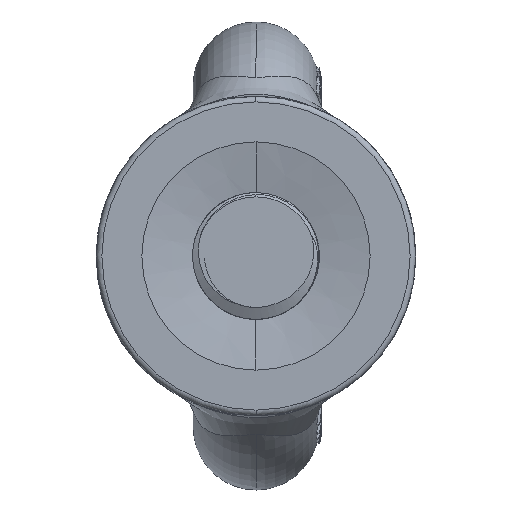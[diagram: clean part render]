
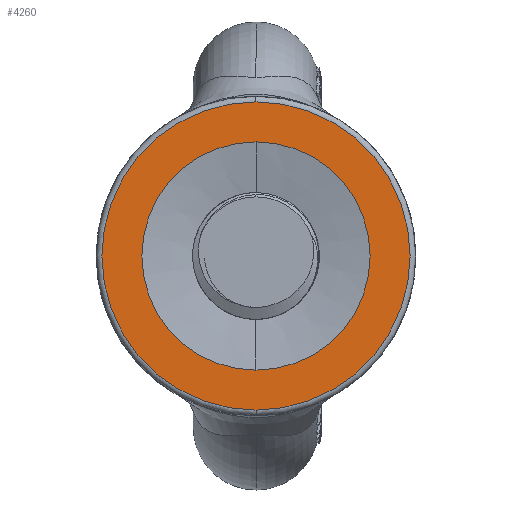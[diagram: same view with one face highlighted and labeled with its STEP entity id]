
A CAD part, left-side view. The second image highlights one B-rep face of the part: STEP entity #4260.
In plain terms, the highlighted planar face has unit normal (-1, 0, 0).
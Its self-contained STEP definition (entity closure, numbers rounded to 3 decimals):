
#27 = VERTEX_POINT ( 'NONE', #7452 ) ;
#41 = VERTEX_POINT ( 'NONE', #7479 ) ;
#502 = ORIENTED_EDGE ( 'NONE', *, *, #2046, .T. ) ;
#509 = ORIENTED_EDGE ( 'NONE', *, *, #2045, .F. ) ;
#546 = ORIENTED_EDGE ( 'NONE', *, *, #1826, .T. ) ;
#1826 = EDGE_CURVE ( 'NONE', #27, #41, #3718, .T. ) ;
#1956 = EDGE_CURVE ( 'NONE', #2283, #2376, #3725, .T. ) ;
#2045 = EDGE_CURVE ( 'NONE', #2376, #2283, #3799, .T. ) ;
#2046 = EDGE_CURVE ( 'NONE', #41, #27, #3800, .T. ) ;
#2056 = AXIS2_PLACEMENT_3D ( 'NONE', #9198, #9199, #9200 ) ;
#2063 = AXIS2_PLACEMENT_3D ( 'NONE', #5085, #5086, #5087 ) ;
#2081 = AXIS2_PLACEMENT_3D ( 'NONE', #6181, #6182, #6183 ) ;
#2082 = AXIS2_PLACEMENT_3D ( 'NONE', #6186, #6187, #6188 ) ;
#2283 = VERTEX_POINT ( 'NONE', #3295 ) ;
#2376 = VERTEX_POINT ( 'NONE', #3386 ) ;
#3295 = CARTESIAN_POINT ( 'NONE',  ( 0., 0., -10. ) ) ;
#3386 = CARTESIAN_POINT ( 'NONE',  ( 0., 0., 10. ) ) ;
#3718 = CIRCLE ( 'NONE', #2056, 13.5 ) ;
#3725 = CIRCLE ( 'NONE', #2063, 10. ) ;
#3799 = CIRCLE ( 'NONE', #2081, 10. ) ;
#3800 = CIRCLE ( 'NONE', #2082, 13.5 ) ;
#4260 = ADVANCED_FACE ( 'NONE', ( #8343, #8340 ), #10030, .F. ) ;
#4952 = EDGE_LOOP ( 'NONE', ( #509, #5015 ) ) ;
#5015 = ORIENTED_EDGE ( 'NONE', *, *, #1956, .F. ) ;
#5085 = CARTESIAN_POINT ( 'NONE',  ( 0., 0., 0. ) ) ;
#5086 = DIRECTION ( 'NONE',  ( -1., 0., 0. ) ) ;
#5087 = DIRECTION ( 'NONE',  ( 0., 0., 1. ) ) ;
#6181 = CARTESIAN_POINT ( 'NONE',  ( 0., 0., 0. ) ) ;
#6182 = DIRECTION ( 'NONE',  ( -1., 0., 0. ) ) ;
#6183 = DIRECTION ( 'NONE',  ( 0., 0., 1. ) ) ;
#6186 = CARTESIAN_POINT ( 'NONE',  ( 0., 0., 0. ) ) ;
#6187 = DIRECTION ( 'NONE',  ( -1., 0., 0. ) ) ;
#6188 = DIRECTION ( 'NONE',  ( 0., 0., -1. ) ) ;
#6771 = EDGE_LOOP ( 'NONE', ( #502, #546 ) ) ;
#7452 = CARTESIAN_POINT ( 'NONE',  ( 0., 0., 13.5 ) ) ;
#7479 = CARTESIAN_POINT ( 'NONE',  ( 0., 0., -13.5 ) ) ;
#7991 = AXIS2_PLACEMENT_3D ( 'NONE', #10037, #10038, #10039 ) ;
#8340 = FACE_BOUND ( 'NONE', #4952, .T. ) ;
#8343 = FACE_OUTER_BOUND ( 'NONE', #6771, .T. ) ;
#9198 = CARTESIAN_POINT ( 'NONE',  ( 0., 0., 0. ) ) ;
#9199 = DIRECTION ( 'NONE',  ( -1., 0., 0. ) ) ;
#9200 = DIRECTION ( 'NONE',  ( 0., 0., -1. ) ) ;
#10030 = PLANE ( 'NONE',  #7991 ) ;
#10037 = CARTESIAN_POINT ( 'NONE',  ( 0., 0., -10. ) ) ;
#10038 = DIRECTION ( 'NONE',  ( 1., 0., 0. ) ) ;
#10039 = DIRECTION ( 'NONE',  ( 0., 0., -1. ) ) ;
